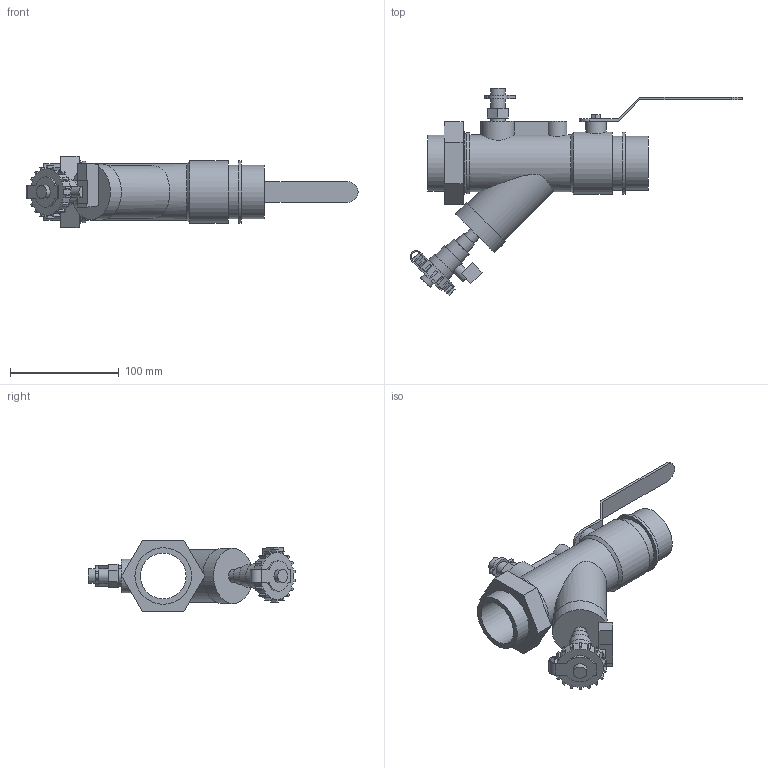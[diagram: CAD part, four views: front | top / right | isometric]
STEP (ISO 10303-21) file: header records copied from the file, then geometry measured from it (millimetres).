
FILE_DESCRIPTION(/* description */ ('VIC Y-STRAINER/BALL SERIES 78Y (FPT)','CAx-IF Rec.Pracs.---Representation and Presentation of Product Manufacturing Information (PMI)---4.0---2014-10-13'),/* implementation_level */ '2;1');
FILE_NAME(/* name */ 'C:\Users\kkamble\Desktop\extraction\OldVersions\Victaulic_IPS_Valve Ball Y Strainer Combination_Series 78Y (FPT)\Victaulic_IPS_Valve Ball Y Strainer Combination_Series 78Y (FPT)_01.25x01.25 (32x32).stp',/* time_stamp */ '2020-10-19T10:39:18+05:00',/* author */ ('kkamble'),/* organization */ ('Victaulic'),/* preprocessor_version */ 'ST-DEVELOPER v17.2',/* originating_system */ 'Autodesk Inventor 2019',/* authorisation */ '');
FILE_SCHEMA (('AP242_MANAGED_MODEL_BASED_3D_ENGINEERING_MIM_LF { 1 0 10303 442 1 1 4 }'));
Length unit declared in the file: inch
Products named in the file (1): 78Y-1.25x1.25
Bounding box: 305.97 x 190.92 x 66.04 mm (x, y, z)
Volume: 292822.1 mm3; surface area: 114830.2 mm2
Topology: 2 solids, 3 shells, 195 faces, 521 edges, 354 vertices
Faces by surface type: plane 134, cylinder 59, cone 2
Full cylindrical faces by diameter (mm): 10.16 x1, 11.887 x1, 12.565 x1, 12.7 x1, 13.462 x5, 15.24 x1, 19.05 x1, 20.32 x1, 22.86 x1, 25.4 x1, 27.94 x1, 42.164 x2, 43.18 x1, 48.26 x1, 49.53 x2, 50.8 x1, 52.019 x1, 52.324 x2, 56.515 x1, 57.15 x1, 57.404 x1, 58.42 x1
Entity records: 6751 total; most frequent: CARTESIAN_POINT 1481, DIRECTION 1093, ORIENTED_EDGE 1042, EDGE_CURVE 521, AXIS2_PLACEMENT_3D 382, VERTEX_POINT 354, LINE 329, VECTOR 329
